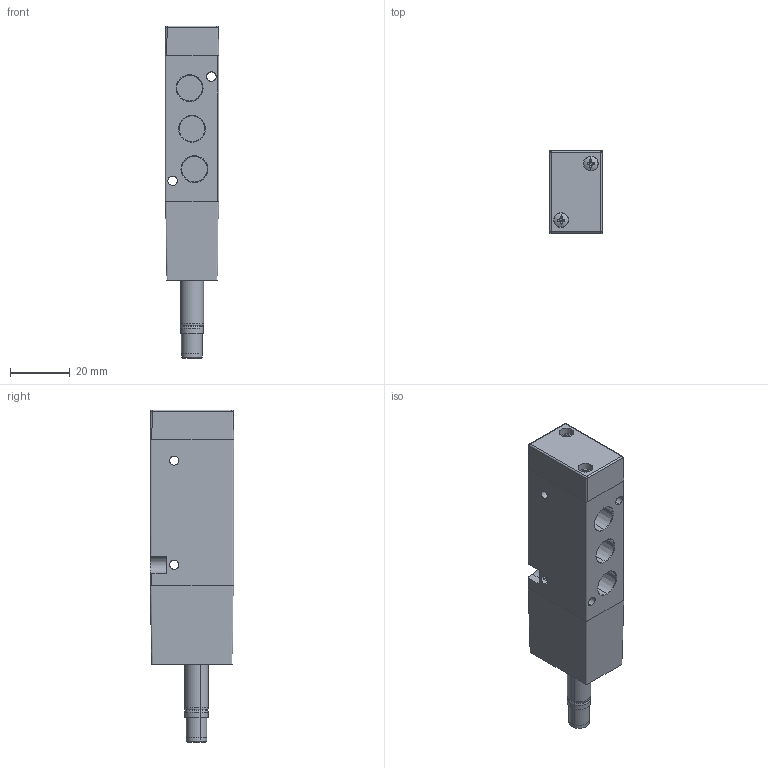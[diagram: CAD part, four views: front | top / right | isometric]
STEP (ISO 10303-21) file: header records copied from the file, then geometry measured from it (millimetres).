
FILE_DESCRIPTION (( 'STEP AP203' ), '1' );
FILE_NAME ('K52W101.8.STEP', '2006-01-31T13:06:29', ( 'Vesta Automation srl' ), ( 'Vesta Automation srl' ), 'SwSTEP 2.0', 'SolidWorks 2005187', '' );
FILE_SCHEMA (( 'CONFIG_CONTROL_DESIGN' ));
Length unit declared in the file: millimetre
Products named in the file (1): K52W101.8
Bounding box: 18 x 28 x 111.5 mm (x, y, z)
Volume: 36019.8 mm3; surface area: 15450.7 mm2
Topology: 1 solids, 7 shells, 578 faces, 1435 edges, 906 vertices
Faces by surface type: plane 298, cylinder 127, cone 86, bspline 39, torus 20, sphere 8
Entity records: 20723 total; most frequent: CARTESIAN_POINT 7031, ORIENTED_EDGE 2854, DIRECTION 2776, EDGE_CURVE 1427, AXIS2_PLACEMENT_3D 977, VERTEX_POINT 906, LINE 822, VECTOR 822
